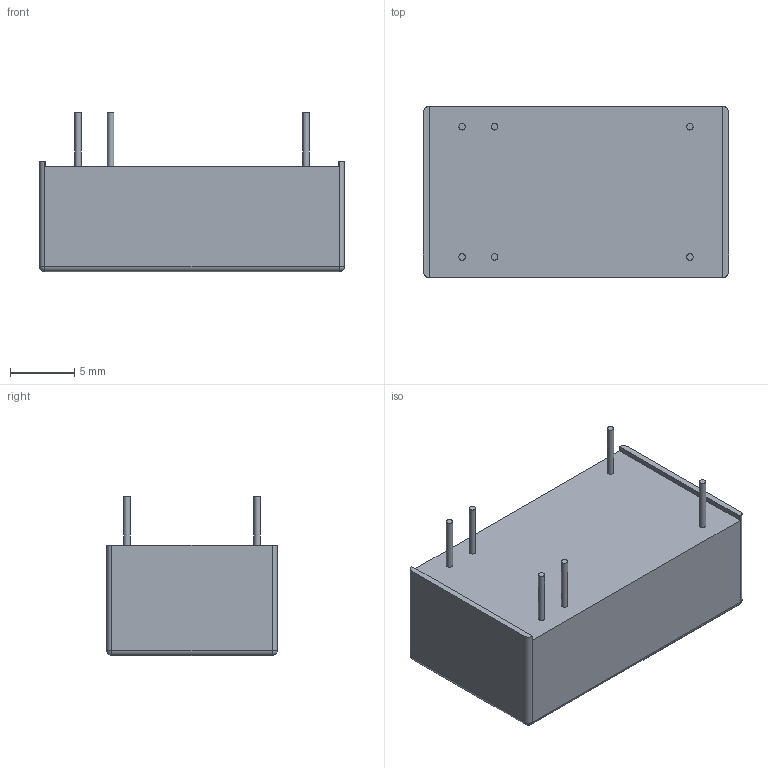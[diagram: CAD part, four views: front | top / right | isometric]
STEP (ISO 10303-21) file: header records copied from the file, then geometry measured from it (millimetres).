
FILE_DESCRIPTION(/* description */ (''),/* implementation_level */ '2;1');
FILE_NAME(/* name */ 'C:\Users\CALLIOPE\Documents\Inventor\MCW1000\3D\X2\591689C05C3A5BF8\X0\\型錄用-STEP檔\MDHU100+MDEU02-HI.stp',/* time_stamp */ '2015-03-13T08:35:07+08:00',/* author */ ('CALLIOPE'),/* organization */ (''),/* preprocessor_version */ 'ST-DEVELOPER v15.6',/* originating_system */ 'Autodesk Inventor 2015',/* authorisation */ '');
FILE_SCHEMA (('AUTOMOTIVE_DESIGN { 1 0 10303 214 3 1 1 }'));
Length unit declared in the file: millimetre
Products named in the file (1): MDHU100+MDEU02-HI
Bounding box: 23.8 x 13.3 x 12.42 mm (x, y, z)
Volume: 2607.9 mm3; surface area: 1286 mm2
Topology: 1 solids, 1 shells, 36 faces, 73 edges, 42 vertices
Faces by surface type: plane 17, cylinder 15, sphere 4
Full cylindrical faces by diameter (mm): 0.5 x6, 1 x1
Entity records: 896 total; most frequent: DIRECTION 166, CARTESIAN_POINT 141, ORIENTED_EDGE 124, AXIS2_PLACEMENT_3D 67, EDGE_CURVE 62, EDGE_LOOP 50, VERTEX_POINT 42, FACE_OUTER_BOUND 36
